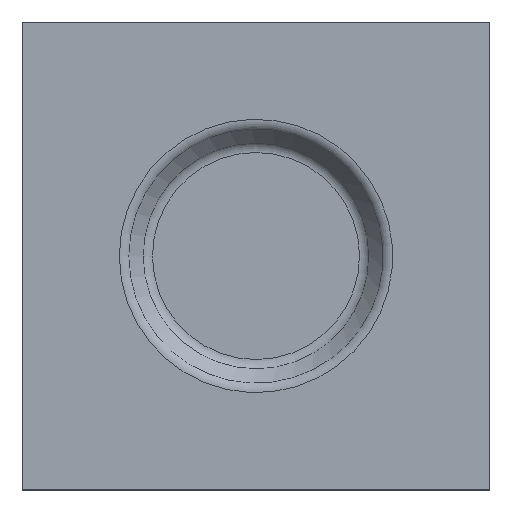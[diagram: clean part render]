
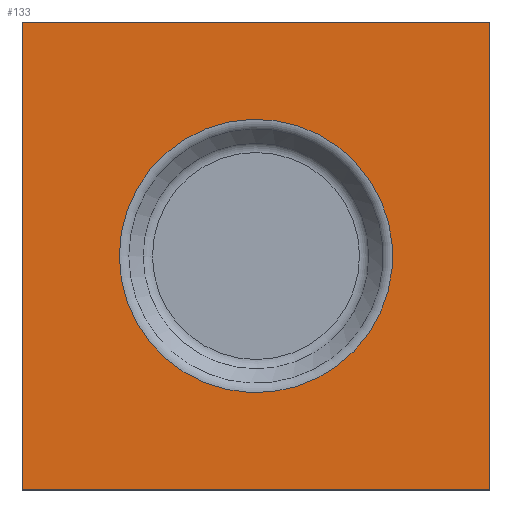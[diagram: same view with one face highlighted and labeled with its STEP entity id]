
A CAD part, top view. The second image highlights one B-rep face of the part: STEP entity #133.
In plain terms, the highlighted planar face has unit normal (0, 0, 1).
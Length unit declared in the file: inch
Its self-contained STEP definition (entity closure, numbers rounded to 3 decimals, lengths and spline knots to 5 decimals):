
#24=CARTESIAN_POINT('',(-1.17,1.495,15.212));
#25=VERTEX_POINT('',#24);
#34=CARTESIAN_POINT('',(-1.17,0.745,15.212));
#35=VERTEX_POINT('',#34);
#36=CARTESIAN_POINT('',(-1.17,0.,15.212));
#37=DIRECTION('',(0.,1.,0.));
#38=VECTOR('',#37,1.);
#39=LINE('',#36,#38);
#40=EDGE_CURVE('',#35,#25,#39,.T.);
#65=CARTESIAN_POINT('',(-1.92,0.745,15.212));
#66=VERTEX_POINT('',#65);
#67=CARTESIAN_POINT('',(0.,0.745,15.212));
#68=DIRECTION('',(1.,0.,0.));
#69=VECTOR('',#68,1.);
#70=LINE('',#67,#69);
#71=EDGE_CURVE('',#66,#35,#70,.T.);
#95=ORIENTED_EDGE('',*,*,#40,.T.);
#96=CARTESIAN_POINT('',(-1.92,1.495,15.212));
#97=VERTEX_POINT('',#96);
#98=CARTESIAN_POINT('',(0.,1.495,15.212));
#99=DIRECTION('',(-1.,0.,0.));
#100=VECTOR('',#99,1.);
#101=LINE('',#98,#100);
#102=EDGE_CURVE('',#25,#97,#101,.T.);
#103=ORIENTED_EDGE('',*,*,#102,.T.);
#104=CARTESIAN_POINT('',(-1.92,0.,15.212));
#105=DIRECTION('',(0.,-1.,0.));
#106=VECTOR('',#105,1.);
#107=LINE('',#104,#106);
#108=EDGE_CURVE('',#97,#66,#107,.T.);
#109=ORIENTED_EDGE('',*,*,#108,.T.);
#110=ORIENTED_EDGE('',*,*,#71,.T.);
#111=EDGE_LOOP('',(#95,#103,#109,#110));
#112=FACE_OUTER_BOUND('',#111,.T.);
#113=CARTESIAN_POINT('',(-1.76408,1.12,15.212));
#114=VERTEX_POINT('',#113);
#115=CARTESIAN_POINT('',(-1.32656,1.13669,15.212));
#116=VERTEX_POINT('',#115);
#117=CARTESIAN_POINT('',(-1.545,1.12,15.212));
#118=DIRECTION('',(0.,0.,-1.));
#119=DIRECTION('',(1.,0.,0.));
#120=AXIS2_PLACEMENT_3D('',#117,#118,#119);
#121=CIRCLE('',#120,0.21908);
#122=EDGE_CURVE('',#114,#116,#121,.T.);
#123=ORIENTED_EDGE('',*,*,#122,.T.);
#124=EDGE_CURVE('',#116,#114,#121,.T.);
#125=ORIENTED_EDGE('',*,*,#124,.T.);
#126=EDGE_LOOP('',(#123,#125));
#127=FACE_BOUND('',#126,.T.);
#128=CARTESIAN_POINT('',(-0.82,-1.10208,15.212));
#129=DIRECTION('',(0.,0.,1.));
#130=DIRECTION('',(0.,1.,0.));
#131=AXIS2_PLACEMENT_3D('',#128,#129,#130);
#132=PLANE('',#131);
#133=ADVANCED_FACE('',(#112,#127),#132,.T.);
